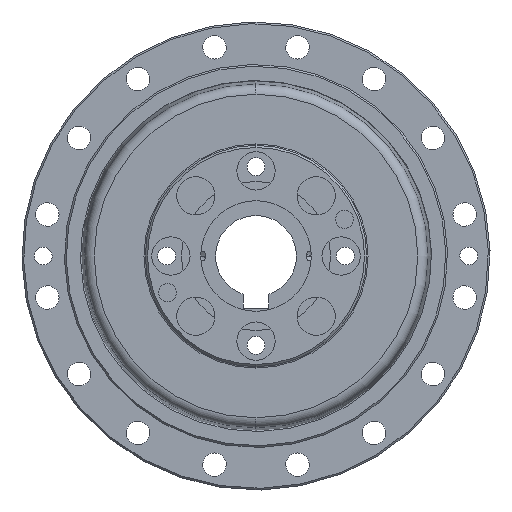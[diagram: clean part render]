
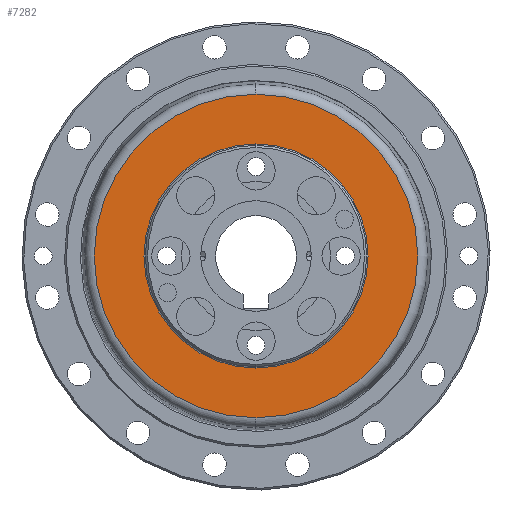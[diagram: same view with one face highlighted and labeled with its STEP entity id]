
A CAD part, left-side view. The second image highlights one B-rep face of the part: STEP entity #7282.
In plain terms, the highlighted planar face has unit normal (-1, 0, 0).
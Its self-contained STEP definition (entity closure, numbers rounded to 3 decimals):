
#88 = DIRECTION ( 'NONE',  ( 0., 0., 1. ) ) ;
#238 = CARTESIAN_POINT ( 'NONE',  ( -19.589, 0., 38.007 ) ) ;
#526 = CIRCLE ( 'NONE', #4354, 38.007 ) ;
#716 = AXIS2_PLACEMENT_3D ( 'NONE', #3099, #6678, #1189 ) ;
#869 = EDGE_LOOP ( 'NONE', ( #6730, #8482 ) ) ;
#912 = AXIS2_PLACEMENT_3D ( 'NONE', #10571, #3158, #8177 ) ;
#1105 = AXIS2_PLACEMENT_3D ( 'NONE', #6182, #9104, #9446 ) ;
#1189 = DIRECTION ( 'NONE',  ( 0., 0., 1. ) ) ;
#1853 = DIRECTION ( 'NONE',  ( -1., 0., 0. ) ) ;
#2139 = PLANE ( 'NONE',  #912 ) ;
#2466 = VERTEX_POINT ( 'NONE', #4542 ) ;
#2488 = CIRCLE ( 'NONE', #3334, 26.325 ) ;
#3003 = EDGE_CURVE ( 'NONE', #5910, #8113, #2488, .T. ) ;
#3099 = CARTESIAN_POINT ( 'NONE',  ( -19.589, 0., 0. ) ) ;
#3158 = DIRECTION ( 'NONE',  ( 1., 0., 0. ) ) ;
#3334 = AXIS2_PLACEMENT_3D ( 'NONE', #8490, #10691, #8994 ) ;
#3903 = ORIENTED_EDGE ( 'NONE', *, *, #6227, .T. ) ;
#4354 = AXIS2_PLACEMENT_3D ( 'NONE', #6741, #1853, #88 ) ;
#4465 = EDGE_CURVE ( 'NONE', #8113, #5910, #5914, .T. ) ;
#4542 = CARTESIAN_POINT ( 'NONE',  ( -19.589, 0., -38.007 ) ) ;
#4601 = CARTESIAN_POINT ( 'NONE',  ( -19.589, 0., 26.325 ) ) ;
#5744 = CARTESIAN_POINT ( 'NONE',  ( -19.589, 0., -26.325 ) ) ;
#5830 = EDGE_CURVE ( 'NONE', #2466, #9015, #526, .T. ) ;
#5851 = ORIENTED_EDGE ( 'NONE', *, *, #5830, .T. ) ;
#5910 = VERTEX_POINT ( 'NONE', #4601 ) ;
#5914 = CIRCLE ( 'NONE', #716, 26.325 ) ;
#6182 = CARTESIAN_POINT ( 'NONE',  ( -19.589, 0., 0. ) ) ;
#6227 = EDGE_CURVE ( 'NONE', #9015, #2466, #7466, .T. ) ;
#6678 = DIRECTION ( 'NONE',  ( -1., 0., 0. ) ) ;
#6730 = ORIENTED_EDGE ( 'NONE', *, *, #3003, .F. ) ;
#6741 = CARTESIAN_POINT ( 'NONE',  ( -19.589, 0., 0. ) ) ;
#7282 = ADVANCED_FACE ( 'NONE', ( #10030, #8058 ), #2139, .F. ) ;
#7466 = CIRCLE ( 'NONE', #1105, 38.007 ) ;
#8058 = FACE_OUTER_BOUND ( 'NONE', #9907, .T. ) ;
#8113 = VERTEX_POINT ( 'NONE', #5744 ) ;
#8177 = DIRECTION ( 'NONE',  ( 0., 0., -1. ) ) ;
#8482 = ORIENTED_EDGE ( 'NONE', *, *, #4465, .F. ) ;
#8490 = CARTESIAN_POINT ( 'NONE',  ( -19.589, 0., 0. ) ) ;
#8994 = DIRECTION ( 'NONE',  ( 0., 0., 1. ) ) ;
#9015 = VERTEX_POINT ( 'NONE', #238 ) ;
#9104 = DIRECTION ( 'NONE',  ( -1., 0., 0. ) ) ;
#9446 = DIRECTION ( 'NONE',  ( 0., 0., 1. ) ) ;
#9907 = EDGE_LOOP ( 'NONE', ( #3903, #5851 ) ) ;
#10030 = FACE_BOUND ( 'NONE', #869, .T. ) ;
#10571 = CARTESIAN_POINT ( 'NONE',  ( -19.589, 38.007, 0. ) ) ;
#10691 = DIRECTION ( 'NONE',  ( -1., 0., 0. ) ) ;
